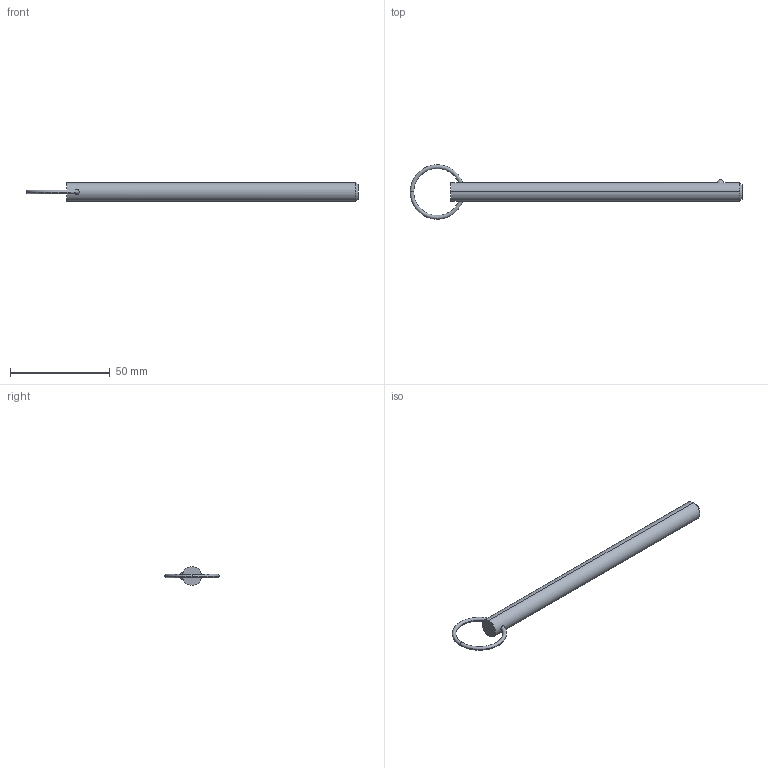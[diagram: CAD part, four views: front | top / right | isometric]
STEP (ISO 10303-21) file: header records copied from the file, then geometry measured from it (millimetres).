
FILE_DESCRIPTION (( 'STEP AP203' ), '1' );
FILE_NAME ('33012.W3750.step', '2024-11-01T14:10:30', ( '' ), ( '' ), 'SwSTEP 2.0', 'SolidWorks 2019', '' );
FILE_SCHEMA (( 'CONFIG_CONTROL_DESIGN' ));
Length unit declared in the file: millimetre
Products named in the file (3): Part1_33012.W3750; 33012.W3750; Part2_33012.W3750
Assembly tree (2 placements, depth 2):
  33012.W3750
    Part1_33012.W3750
    Part2_33012.W3750
Bounding box: 166.39 x 27.28 x 9.4 mm (x, y, z)
Volume: 10306.9 mm3; surface area: 4969.5 mm2
Topology: 2 solids, 2 shells, 16 faces, 31 edges, 18 vertices
Faces by surface type: torus 8, sphere 2, cone 2, cylinder 2, plane 2
Entity records: 849 total; most frequent: CARTESIAN_POINT 206, DIRECTION 88, ORIENTED_EDGE 62, AXIS2_PLACEMENT_3D 42, EDGE_CURVE 31, PERSON_AND_ORGANIZATION 26, CIRCLE 21, COORDINATED_UNIVERSAL_TIME_OFFSET 19
